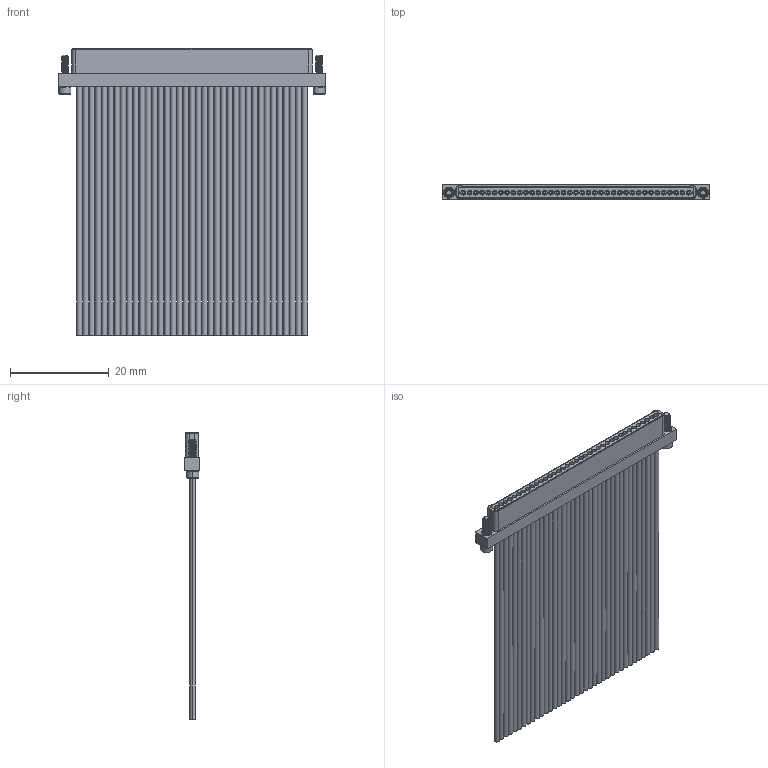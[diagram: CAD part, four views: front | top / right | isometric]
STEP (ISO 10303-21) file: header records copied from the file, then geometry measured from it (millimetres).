
FILE_DESCRIPTION (( 'STEP AP214' ), '1' );
FILE_NAME ('A91001-037 REV B.STEP', '2021-03-01T21:56:07', ( '' ), ( '' ), 'SwSTEP 2.0', 'SolidWorks 2019', '' );
FILE_SCHEMA (( 'AUTOMOTIVE_DESIGN' ));
Length unit declared in the file: inch
Products named in the file (1): A91001-037 REV B
Bounding box: 54.23 x 3.19 x 58.04 mm (x, y, z)
Volume: 2585.6 mm3; surface area: 9720 mm2
Topology: 1 solids, 1 shells, 816 faces, 1849 edges, 1216 vertices
Faces by surface type: cylinder 392, plane 324, bspline 54, cone 30, torus 16
Entity records: 40021 total; most frequent: CARTESIAN_POINT 10924, DIRECTION 3921, ORIENTED_EDGE 3698, EDGE_CURVE 1849, AXIS2_PLACEMENT_3D 1525, VERTEX_POINT 1216, EDGE_LOOP 997, VECTOR 871
